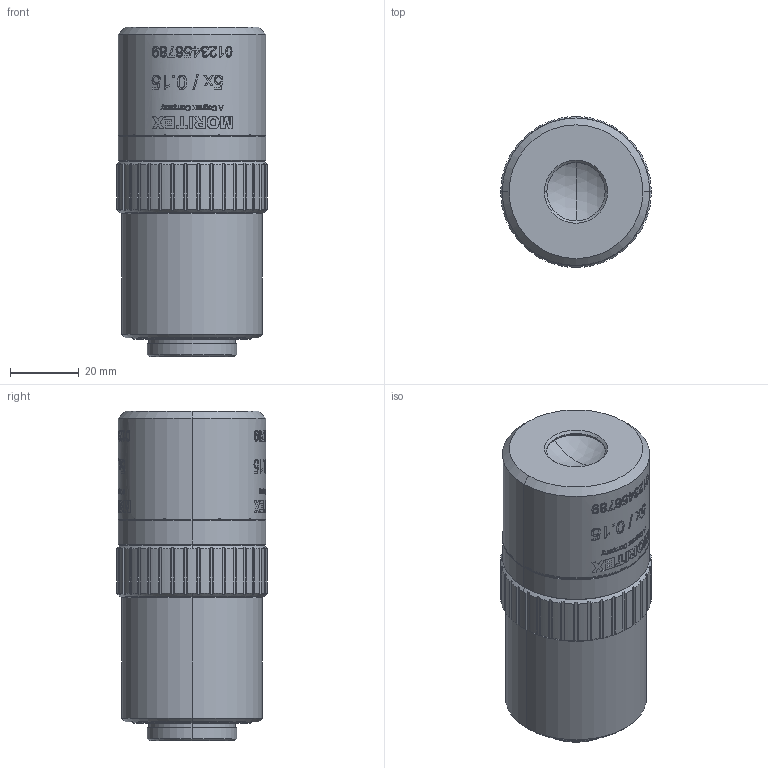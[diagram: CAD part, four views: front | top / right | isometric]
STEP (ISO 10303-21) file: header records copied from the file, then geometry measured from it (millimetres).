
FILE_DESCRIPTION (( 'STEP AP214' ), '1' );
FILE_NAME ('MOL5-01525HR-38MA.STEP', '2026-04-17T09:13:18', ( '' ), ( '' ), 'SwSTEP 2.0', 'SolidWorks 2025', '' );
FILE_SCHEMA (( 'AUTOMOTIVE_DESIGN' ));
Length unit declared in the file: millimetre
Products named in the file (1): MOL5-01525HR-38MA
Bounding box: 44 x 43.99 x 96 mm (x, y, z)
Volume: 122354.7 mm3; surface area: 19043.1 mm2
Topology: 1 solids, 1 shells, 1261 faces, 3363 edges, 2228 vertices
Faces by surface type: bspline 592, plane 444, cylinder 185, cone 36, sphere 4
Entity records: 99872 total; most frequent: CARTESIAN_POINT 73795, ORIENTED_EDGE 6726, EDGE_CURVE 3363, DIRECTION 3157, VERTEX_POINT 2228, B_SPLINE_CURVE_WITH_KNOTS 2112, EDGE_LOOP 1385, FACE_OUTER_BOUND 1261
